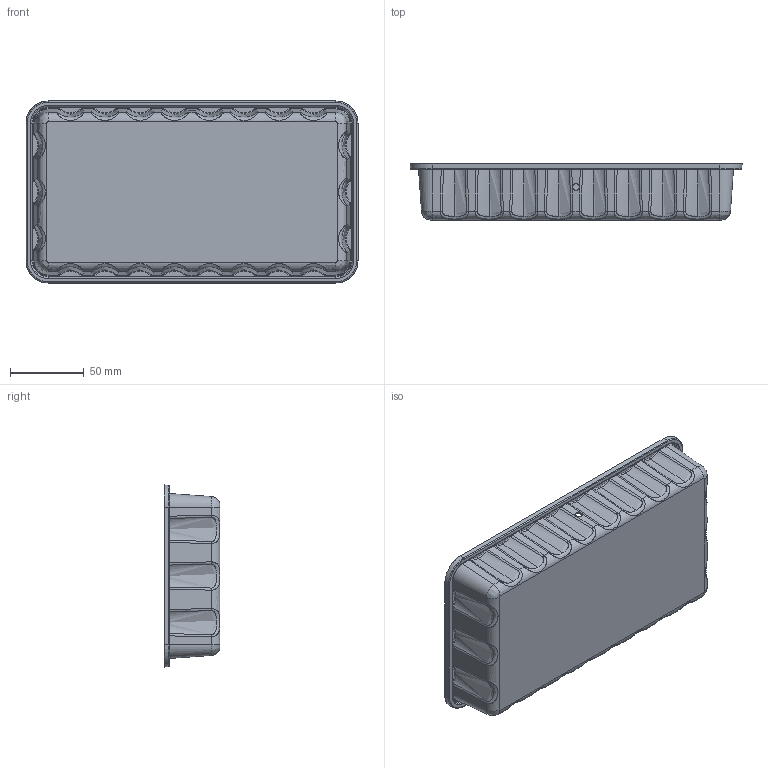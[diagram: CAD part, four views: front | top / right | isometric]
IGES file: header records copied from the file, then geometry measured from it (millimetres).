
Start section: SolidWorks IGES file using analytic representation for surfaces
Global section: file name: C:\Working\Micro_Cases\1060_OEM_BTM.IGS; native system: SolidWorks 2007; preprocessor: SolidWorks 2007; author: elopez; date: 081027.165936; units: inch
Bounding box: 224.92 x 37.85 x 123.32 mm (x, y, z)
Surface area: 100371.7 mm2 (no closed solid volume)
Topology: 0 solids, 0 shells, 545 faces, 4790 edges, 4790 vertices
Faces by surface type: bspline 379, revolution 166
